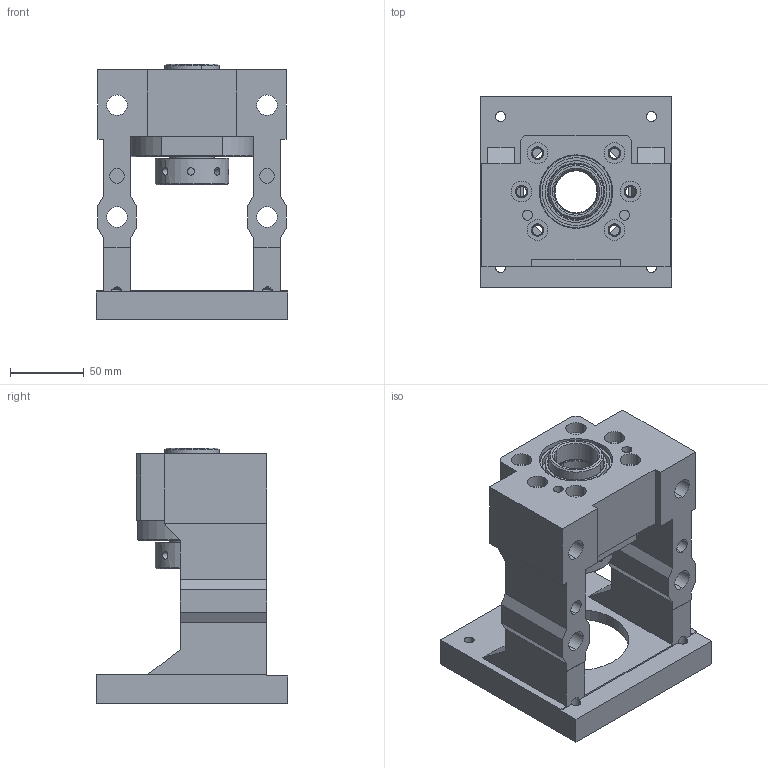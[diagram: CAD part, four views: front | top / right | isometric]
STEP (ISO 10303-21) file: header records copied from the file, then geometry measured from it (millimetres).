
FILE_DESCRIPTION (( 'STEP AP203' ), '1' );
FILE_NAME ('MBCS30-G.STEP', '2026-02-11T03:17:25', ( '' ), ( '' ), 'SwSTEP 2.0', 'SolidWorks 2018', '' );
FILE_SCHEMA (( 'CONFIG_CONTROL_DESIGN' ));
Length unit declared in the file: millimetre
Products named in the file (2): MBCS30-G
Bounding box: 130 x 130 x 174 mm (x, y, z)
Surface area: 155875.7 mm2 (no closed solid volume)
Topology: 0 solids, 10 shells, 257 faces, 700 edges, 457 vertices
Faces by surface type: cylinder 123, plane 80, cone 36, torus 18
Entity records: 9162 total; most frequent: CARTESIAN_POINT 2234, DIRECTION 1517, ORIENTED_EDGE 1287, EDGE_CURVE 700, AXIS2_PLACEMENT_3D 592, VERTEX_POINT 457, CIRCLE 333, VECTOR 333
